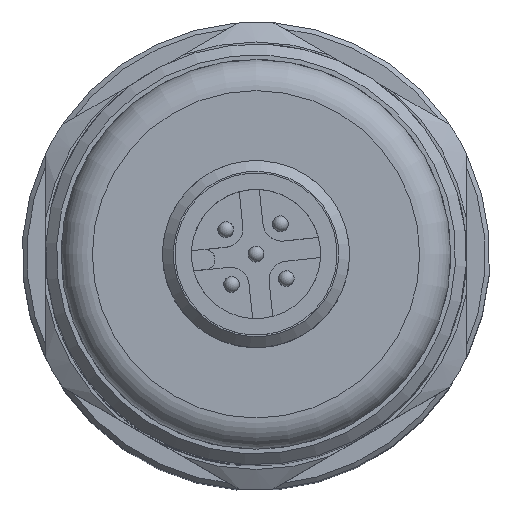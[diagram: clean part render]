
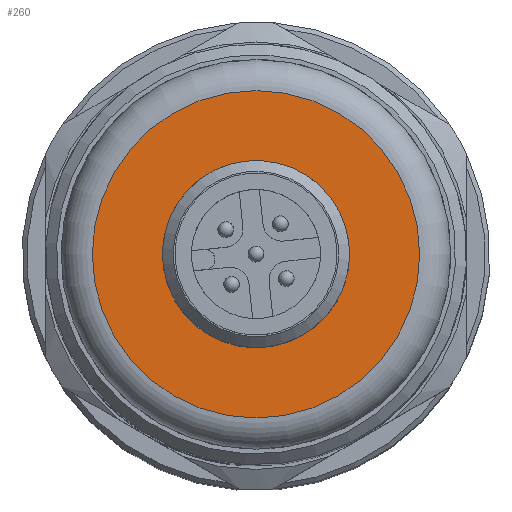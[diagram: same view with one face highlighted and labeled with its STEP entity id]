
A CAD part, top view. The second image highlights one B-rep face of the part: STEP entity #260.
In plain terms, the highlighted planar face has unit normal (0, 0, 1).
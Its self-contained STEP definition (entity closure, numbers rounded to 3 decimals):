
#260=ADVANCED_FACE('',(#41616,#41618),#41620,.T.);
#41616=FACE_BOUND('',#41617,.T.);
#41617=EDGE_LOOP('',(#140873,#140874));
#41618=FACE_BOUND('',#41619,.T.);
#41619=EDGE_LOOP('',(#140875));
#41620=PLANE('',#41621);
#41621=AXIS2_PLACEMENT_3D('',#41622,#41623,#41624);
#41622=CARTESIAN_POINT('',(0.,0.,13.75));
#41623=DIRECTION('',(0.,0.,1.));
#41624=DIRECTION('',(-1.,0.,0.));
#140873=ORIENTED_EDGE('',*,*,#166782,.F.);
#140874=ORIENTED_EDGE('',*,*,#166783,.F.);
#140875=ORIENTED_EDGE('',*,*,#166784,.T.);
#166782=EDGE_CURVE('',#179789,#179790,#179791,.T.);
#166783=EDGE_CURVE('',#179790,#179789,#179792,.T.);
#166784=EDGE_CURVE('',#179793,#179793,#179794,.T.);
#179789=VERTEX_POINT('',#201135);
#179790=VERTEX_POINT('',#201136);
#179791=CIRCLE('',#201137,10.5);
#179792=CIRCLE('',#201141,10.5);
#179793=VERTEX_POINT('',#201145);
#179794=CIRCLE('',#201146,6.);
#201135=CARTESIAN_POINT('',(10.5,0.,13.75));
#201136=CARTESIAN_POINT('',(-10.5,0.,13.75));
#201137=AXIS2_PLACEMENT_3D('',#201138,#201139,#201140);
#201138=CARTESIAN_POINT('',(0.,0.,13.75));
#201139=DIRECTION('',(0.,0.,-1.));
#201140=DIRECTION('',(1.,0.,0.));
#201141=AXIS2_PLACEMENT_3D('',#201142,#201143,#201144);
#201142=CARTESIAN_POINT('',(0.,0.,13.75));
#201143=DIRECTION('',(0.,0.,-1.));
#201144=DIRECTION('',(-1.,0.,0.));
#201145=CARTESIAN_POINT('',(-6.,0.,13.75));
#201146=AXIS2_PLACEMENT_3D('',#201147,#201148,#201149);
#201147=CARTESIAN_POINT('',(0.,0.,13.75));
#201148=DIRECTION('',(0.,0.,-1.));
#201149=DIRECTION('',(-1.,0.,0.));
